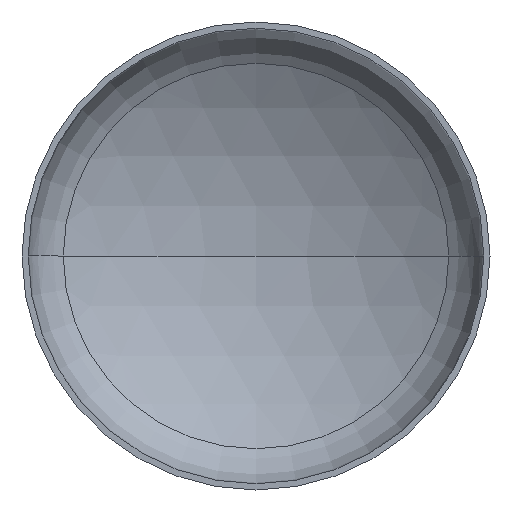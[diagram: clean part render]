
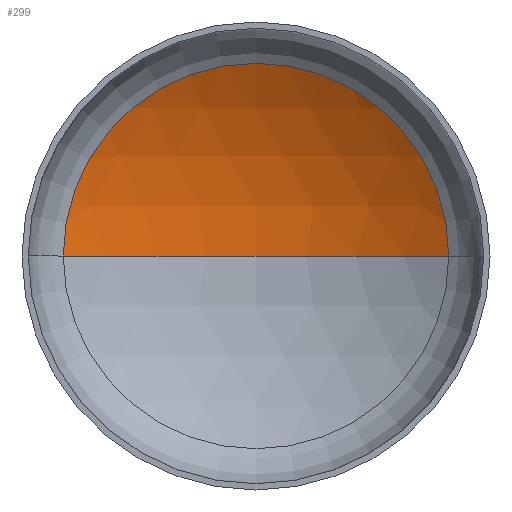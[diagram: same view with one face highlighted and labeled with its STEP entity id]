
A CAD part, front view. The second image highlights one B-rep face of the part: STEP entity #299.
In plain terms, the highlighted spherical face has radius 2880 mm.
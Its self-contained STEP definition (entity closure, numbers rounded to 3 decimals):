
#3 = AXIS2_PLACEMENT_3D ( 'NONE', #379, #284, #329 ) ;
#21 = AXIS2_PLACEMENT_3D ( 'NONE', #166, #324, #191 ) ;
#22 = AXIS2_PLACEMENT_3D ( 'NONE', #396, #256, #55 ) ;
#24 = ORIENTED_EDGE ( 'NONE', *, *, #70, .T. ) ;
#25 = AXIS2_PLACEMENT_3D ( 'NONE', #190, #350, #214 ) ;
#28 = VERTEX_POINT ( 'NONE', #147 ) ;
#38 = SPHERICAL_SURFACE ( 'NONE', #3, 2880. ) ;
#41 = ORIENTED_EDGE ( 'NONE', *, *, #71, .F. ) ;
#55 = DIRECTION ( 'NONE',  ( -1., 0., 0. ) ) ;
#69 = EDGE_CURVE ( 'NONE', #91, #122, #100, .T. ) ;
#70 = EDGE_CURVE ( 'NONE', #28, #91, #372, .T. ) ;
#71 = EDGE_CURVE ( 'NONE', #28, #122, #251, .T. ) ;
#91 = VERTEX_POINT ( 'NONE', #280 ) ;
#100 = CIRCLE ( 'NONE', #25, 1482.735 ) ;
#119 = ORIENTED_EDGE ( 'NONE', *, *, #69, .T. ) ;
#122 = VERTEX_POINT ( 'NONE', #124 ) ;
#124 = CARTESIAN_POINT ( 'NONE',  ( -1482.735, 625.794, 0. ) ) ;
#147 = CARTESIAN_POINT ( 'NONE',  ( 0., 1036.808, 0. ) ) ;
#166 = CARTESIAN_POINT ( 'NONE',  ( 0., -1843.192, 0. ) ) ;
#190 = CARTESIAN_POINT ( 'NONE',  ( 0., 625.794, 0. ) ) ;
#191 = DIRECTION ( 'NONE',  ( 1., 0., 0. ) ) ;
#214 = DIRECTION ( 'NONE',  ( 1., 0., 0. ) ) ;
#251 = CIRCLE ( 'NONE', #21, 2880. ) ;
#256 = DIRECTION ( 'NONE',  ( 0., 0., -1. ) ) ;
#280 = CARTESIAN_POINT ( 'NONE',  ( 1482.735, 625.794, 0. ) ) ;
#284 = DIRECTION ( 'NONE',  ( 0., 0., -1. ) ) ;
#299 = ADVANCED_FACE ( 'NONE', ( #411 ), #38, .F. ) ;
#324 = DIRECTION ( 'NONE',  ( 0., 0., 1. ) ) ;
#329 = DIRECTION ( 'NONE',  ( -1., 0., 0. ) ) ;
#350 = DIRECTION ( 'NONE',  ( 0., -1., 0. ) ) ;
#372 = CIRCLE ( 'NONE', #22, 2880. ) ;
#379 = CARTESIAN_POINT ( 'NONE',  ( 0., -1843.192, 0. ) ) ;
#396 = CARTESIAN_POINT ( 'NONE',  ( 0., -1843.192, 0. ) ) ;
#398 = EDGE_LOOP ( 'NONE', ( #41, #24, #119 ) ) ;
#411 = FACE_OUTER_BOUND ( 'NONE', #398, .T. ) ;
